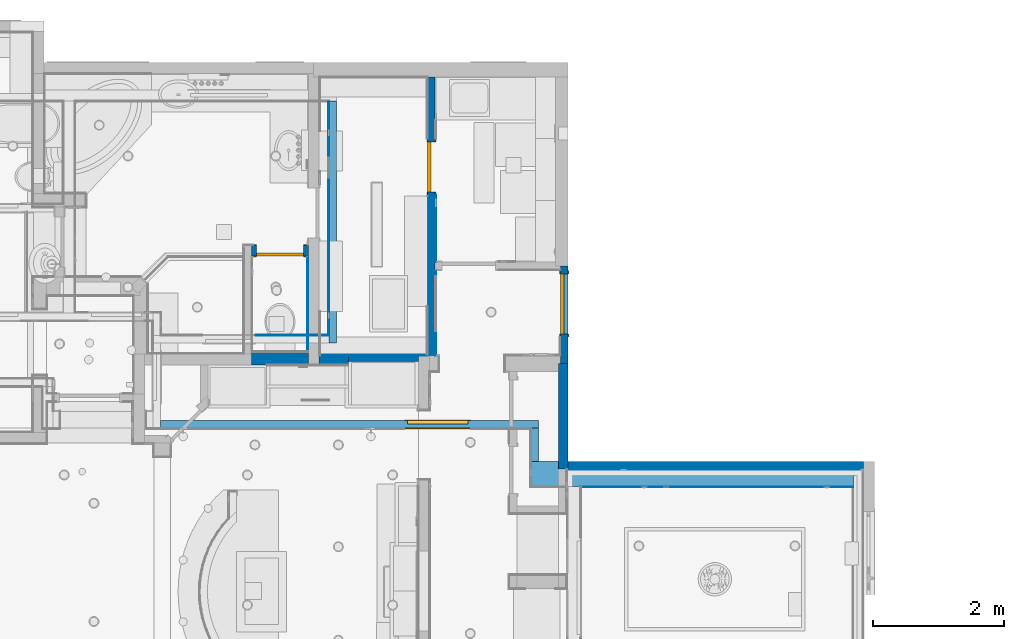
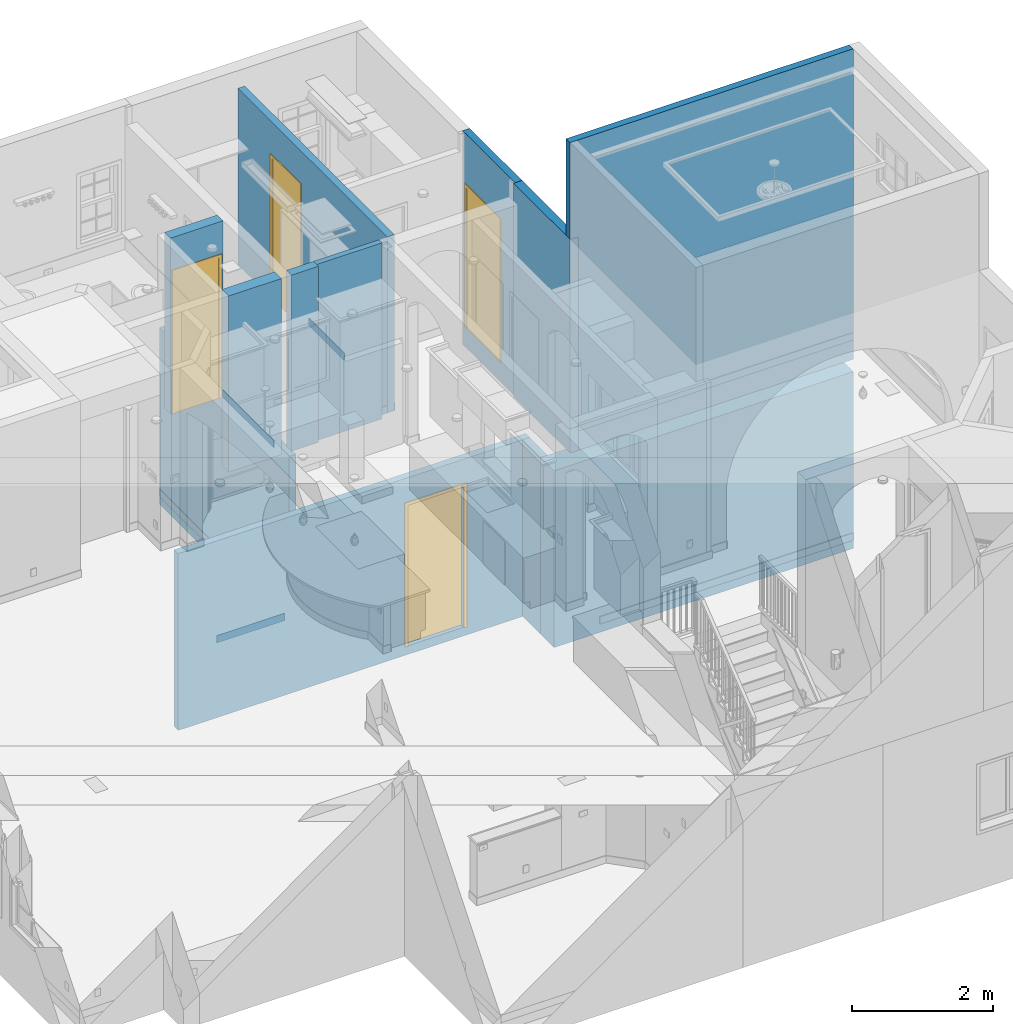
# One storey, part 13 of 81: 20 walls, 4 doors, 4 openings.
"""IFC2X3 building model written with IfcOpenShell, lengths in feet."""

import ifcopenshell
import ifcopenshell.guid

model = None  # the IFC model being written
_history = None  # IfcOwnerHistory: only IFC2X3 demands one
_inside = {}  # id of a spatial element -> (the spatial element, [elements in it])
_under = {}  # id of a project, library or spatial element -> (it, [spatial elements below it])
_declared = {}  # id of a project -> (the project, [libraries it declares])
_typed = {}  # id of a type object -> (the type object, [elements of that type])
_made_of = {}  # id of a material, layer set ... -> (it, [elements and type objects made of it])


def new_model(schema):
    """Start an empty IFC model of exactly this schema.

    Asked for "IFC4X3", IfcOpenShell would pick the latest addendum, in which some entities
    have other attributes; the version numbers below select the first issue.
    IFC2X3 requires an IfcOwnerHistory on every rooted entity: one is made here for all.
    """
    global model, _history
    if schema == "IFC4X3":
        model = ifcopenshell.file(schema_version=(4, 3, 0, 0))
    else:
        model = ifcopenshell.file(schema=schema)
    _inside.clear()
    _under.clear()
    _declared.clear()
    _typed.clear()
    _made_of.clear()
    _history = None
    if model.schema == "IFC2X3":
        org = make("IfcOrganization", Name="unknown")
        user = make(
            "IfcPersonAndOrganization",
            ThePerson=make("IfcPerson", FamilyName="unknown"),
            TheOrganization=org,
        )
        app = make(
            "IfcApplication",
            ApplicationDeveloper=org,
            Version="unknown",
            ApplicationFullName="unknown",
            ApplicationIdentifier="unknown",
        )
        _history = make(
            "IfcOwnerHistory",
            OwningUser=user,
            OwningApplication=app,
            ChangeAction="ADDED",
            CreationDate=0,
        )
    return model


def make(cls, **values):
    """One entity of the class cls with the attributes given. An attribute that is None is left unset."""
    return model.create_entity(
        cls, **{name: value for name, value in values.items() if value is not None}
    )


def entity(cls, *values):
    """Any entity or typed value of the class cls, its attributes in the order of the schema. None: left unset."""
    e = model.create_entity(cls)
    for i, value in enumerate(values):
        if value is not None:
            e[i] = value
    return e


def rooted(cls, **values):
    """An entity with a GlobalId (a new one), such as an element, a storey or a relation."""
    return make(cls, GlobalId=ifcopenshell.guid.new(), OwnerHistory=_history, **values)


def si_unit(unit_type, name, prefix=None):
    """IfcSIUnit, for example si_unit("LENGTHUNIT", "METRE", prefix="MILLI")."""
    return make("IfcSIUnit", UnitType=unit_type, Prefix=prefix, Name=name)


def converted_unit(unit_type, name, factor, base, dimensions=None, offset=None):
    """IfcConversionBasedUnit, such as the inch: factor (a typed value) times the base unit."""
    return make(
        "IfcConversionBasedUnit"
        if offset is None
        else "IfcConversionBasedUnitWithOffset",
        ConversionOffset=offset,
        Dimensions=None
        if dimensions is None
        else entity("IfcDimensionalExponents", *dimensions),
        UnitType=unit_type,
        Name=name,
        ConversionFactor=make(
            "IfcMeasureWithUnit", ValueComponent=factor, UnitComponent=base
        ),
    )


def derived_unit(unit_type, elements):
    """IfcDerivedUnit: a product of units, each with its exponent."""
    return make(
        "IfcDerivedUnit",
        Elements=[
            make("IfcDerivedUnitElement", Unit=unit, Exponent=power)
            for unit, power in elements
        ],
        UnitType=unit_type,
    )


def assignment(units):
    """IfcUnitAssignment: the units of a project."""
    return None if units is None else make("IfcUnitAssignment", Units=units)


def point(xyz):
    """IfcCartesianPoint."""
    return None if xyz is None else make("IfcCartesianPoint", Coordinates=xyz)


def direction(xyz):
    """IfcDirection."""
    return None if xyz is None else make("IfcDirection", DirectionRatios=xyz)


def frame(location, z_axis=None, x_axis=None):
    """IfcAxis2Placement3D, a coordinate frame: its origin and axes. An axis left out is left unset."""
    return make(
        "IfcAxis2Placement3D",
        Location=point(location),
        Axis=direction(z_axis),
        RefDirection=direction(x_axis),
    )


def frame_2d(location, x_axis=None):
    """IfcAxis2Placement2D, a coordinate frame in the plane: its origin and x axis."""
    return make(
        "IfcAxis2Placement2D", Location=point(location), RefDirection=direction(x_axis)
    )


def origin():
    """The frame at (0, 0, 0) with its axes left unset."""
    return frame((0.0, 0.0, 0.0))


def origin_2d_with_axis():
    """The frame at (0, 0) in the plane with the x axis (1, 0) written out."""
    return frame_2d((0.0, 0.0), x_axis=(1.0, 0.0))


def place(relative_to, where):
    """IfcLocalPlacement: puts the frame where relative to a parent placement (None: the world)."""
    return make(
        "IfcLocalPlacement", PlacementRelTo=relative_to, RelativePlacement=where
    )


def context(
    kind, dimensions, precision=None, world=None, true_north=None, identifier=None
):
    """IfcGeometricRepresentationContext, for example the 3D "Model" context."""
    return make(
        "IfcGeometricRepresentationContext",
        ContextIdentifier=identifier,
        ContextType=kind,
        CoordinateSpaceDimension=dimensions,
        Precision=precision,
        WorldCoordinateSystem=world,
        TrueNorth=true_north,
    )


def subcontext(parent, identifier, kind, view, scale=None):
    """IfcGeometricRepresentationSubContext, for example "Body" below "Model"."""
    return make(
        "IfcGeometricRepresentationSubContext",
        ContextIdentifier=identifier,
        ContextType=kind,
        ParentContext=parent,
        TargetScale=scale,
        TargetView=view,
    )


def project(units=None, contexts=None):
    """IfcProject with its units and contexts."""
    return rooted(
        "IfcProject",
        Name="project",
        RepresentationContexts=contexts,
        UnitsInContext=assignment(units),
    )


def spatial(cls, under=None, at=None, **own):
    """A site, building, storey or space (cls), placed at a placement, below another one or the project."""
    s = rooted(cls, ObjectPlacement=at, **own)
    if under is not None:
        _under.setdefault(under.id(), (under, []))[1].append(s)
    return s


def polyline(points):
    """IfcPolyline through the points."""
    return make("IfcPolyline", Points=[point(p) for p in points])


def profile(cls, at=None, kind="AREA", **sizes):
    """A parametric profile (cls). Its sizes go by their IFC names, for example OverallWidth=200.0."""
    return make(cls, ProfileType=kind, Position=at, **sizes)


def rectangle(**sizes):
    """IfcRectangleProfileDef."""
    return profile("IfcRectangleProfileDef", **sizes)


def outline(outer, holes=None, kind="AREA"):
    """IfcArbitraryClosedProfileDef: a profile drawn as a closed curve; with holes, ...WithVoids."""
    if holes is None:
        return make("IfcArbitraryClosedProfileDef", ProfileType=kind, OuterCurve=outer)
    return make(
        "IfcArbitraryProfileDefWithVoids",
        ProfileType=kind,
        OuterCurve=outer,
        InnerCurves=holes,
    )


def extrude(swept, where, along, depth):
    """IfcExtrudedAreaSolid: the profile swept, set in the frame where, extruded along a direction by depth."""
    return make(
        "IfcExtrudedAreaSolid",
        SweptArea=swept,
        Position=where,
        ExtrudedDirection=direction(along),
        Depth=depth,
    )


def clip(a, b, op="DIFFERENCE"):
    """IfcBooleanClippingResult: the solid a cut by the half space b."""
    return make(
        "IfcBooleanClippingResult", Operator=op, FirstOperand=a, SecondOperand=b
    )


def bounded_halfspace(plane, agree, where, boundary):
    """IfcPolygonalBoundedHalfSpace: a half space limited to a polygon's prism."""
    return make(
        "IfcPolygonalBoundedHalfSpace",
        BaseSurface=make("IfcPlane", Position=plane),
        AgreementFlag=agree,
        Position=where,
        PolygonalBoundary=boundary,
    )


def shape(context_of_items, identifier, shape_type, items):
    """IfcShapeRepresentation: the items that make up one representation, for example the "Body"."""
    return make(
        "IfcShapeRepresentation",
        ContextOfItems=context_of_items,
        RepresentationIdentifier=identifier,
        RepresentationType=shape_type,
        Items=items,
    )


def source(mapping_origin, context_of_items, identifier, shape_type, items):
    """IfcRepresentationMap: a shape defined once, which mapped items show again and again."""
    return make(
        "IfcRepresentationMap",
        MappingOrigin=mapping_origin,
        MappedRepresentation=shape(context_of_items, identifier, shape_type, items),
    )


def transform(
    local_origin,
    x_axis=None,
    y_axis=None,
    z_axis=None,
    scale=None,
    scale2=None,
    scale3=None,
    uniform=True,
):
    """IfcCartesianTransformationOperator3D, or its non-uniform kind. x_axis, y_axis, z_axis: its Axis1, 2, 3."""
    if uniform:
        return make(
            "IfcCartesianTransformationOperator3D",
            Axis1=direction(x_axis),
            Axis2=direction(y_axis),
            LocalOrigin=point(local_origin),
            Scale=scale,
            Axis3=direction(z_axis),
        )
    return make(
        "IfcCartesianTransformationOperator3DnonUniform",
        Axis1=direction(x_axis),
        Axis2=direction(y_axis),
        LocalOrigin=point(local_origin),
        Scale=scale,
        Axis3=direction(z_axis),
        Scale2=scale2,
        Scale3=scale3,
    )


def mapped(mapping_source, mapping_target):
    """IfcMappedItem: shows the shape of a source again, moved by a transform."""
    return make(
        "IfcMappedItem", MappingSource=mapping_source, MappingTarget=mapping_target
    )


def material(Name=None, Category=None):
    """IfcMaterial."""
    return make("IfcMaterial", Name=Name, Category=Category)


def material_list(materials):
    """IfcMaterialList."""
    return make("IfcMaterialList", Materials=materials)


def layer(
    of_material, thickness, ventilated=None, Name=None, Category=None, Priority=None
):
    """IfcMaterialLayer: one layer of a wall or slab, of a material (None: an air gap)."""
    return make(
        "IfcMaterialLayer",
        Material=of_material,
        LayerThickness=thickness,
        IsVentilated=ventilated,
        Name=Name,
        Category=Category,
        Priority=Priority,
    )


def layer_set(layers, Name=None):
    """IfcMaterialLayerSet."""
    return make("IfcMaterialLayerSet", MaterialLayers=layers, LayerSetName=Name)


def layer_usage(for_layer_set, set_direction, sense, offset, extent=None):
    """IfcMaterialLayerSetUsage: how a layer set lies in its element."""
    return make(
        "IfcMaterialLayerSetUsage",
        ForLayerSet=for_layer_set,
        LayerSetDirection=set_direction,
        DirectionSense=sense,
        OffsetFromReferenceLine=offset,
        ReferenceExtent=extent,
    )


def made_of(thing, what):
    """Note that an element or type object is made of a material, layer set ...; save() writes the relation."""
    if what is not None:
        _made_of.setdefault(what.id(), (what, []))[1].append(thing)
    return thing


def type_object(cls, material=None, **own):
    """A type object (cls), such as IfcWallType, which elements share."""
    return made_of(rooted(cls, **own), material)


def type_shapes(of_type, sources):
    """Give a type object the sources (RepresentationMaps) that its elements show as mapped items."""
    of_type.RepresentationMaps = sources


def element(
    cls,
    number,
    at=None,
    inside=None,
    cuts=None,
    type_object=None,
    material=None,
    context=None,
    identifier="Body",
    shape_type=None,
    held_by="IfcProductDefinitionShape",
    body=None,
    shapes=None,
    **own,
):
    """One element of the class cls, such as IfcWall. Its Tag is "e" and its number.

    at: its placement. inside: the storey or other place that contains it. cuts: it is an
    opening in that element (IfcRelVoidsElement). A single representation is given by context,
    identifier, shape_type and body (its items); several are given by shapes. held_by: the class
    of the entity that holds the representations. save() writes the other relations.
    """
    e = rooted(cls, Tag="e%d" % number, ObjectPlacement=at, **own)
    if body is not None:
        shapes = [shape(context, identifier, shape_type, body)]
    if shapes is not None:
        e.Representation = make(held_by, Representations=shapes)
    if inside is not None:
        _inside.setdefault(inside.id(), (inside, []))[1].append(e)
    if cuts is not None:
        rooted(
            "IfcRelVoidsElement", RelatingBuildingElement=cuts, RelatedOpeningElement=e
        )
    if type_object is not None:
        _typed.setdefault(type_object.id(), (type_object, []))[1].append(e)
    return made_of(e, material)


def fill(opening, filler):
    """IfcRelFillsElement: the door or window that sits in an opening."""
    return rooted(
        "IfcRelFillsElement",
        RelatingOpeningElement=opening,
        RelatedBuildingElement=filler,
    )


def aggregate(whole, parts):
    """IfcRelAggregates: a whole, such as a stair, and the parts it consists of."""
    return rooted("IfcRelAggregates", RelatingObject=whole, RelatedObjects=parts)


def save(model, path):
    """Write the relations noted so far, then the file.

    IfcRelAggregates (storeys below a building ...), IfcRelContainedInSpatialStructure (elements
    in a storey), IfcRelDefinesByType, IfcRelAssociatesMaterial and IfcRelDeclares: one each for
    every whole, place, type object, material and project.
    """
    for whole, parts in _under.values():
        aggregate(whole, parts)
    for where, things in _inside.values():
        rooted(
            "IfcRelContainedInSpatialStructure",
            RelatedElements=things,
            RelatingStructure=where,
        )
    for kind, things in _typed.values():
        rooted("IfcRelDefinesByType", RelatedObjects=things, RelatingType=kind)
    for what, things in _made_of.values():
        rooted("IfcRelAssociatesMaterial", RelatedObjects=things, RelatingMaterial=what)
    for by, libraries in _declared.values():
        rooted("IfcRelDeclares", RelatingContext=by, RelatedDefinitions=libraries)
    model.write(path)


model = new_model("IFC2X3")

# Units and contexts
model_context = context("Model", 3, precision=0.0001, world=origin(), true_north=direction((6.12303176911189e-17, 1.0)))
body_context = subcontext(model_context, "Body", "Model", "MODEL_VIEW")
ifc_project = project(units=[converted_unit("LENGTHUNIT", "FOOT", entity("IfcRatioMeasure", 0.3048), si_unit("LENGTHUNIT", "METRE"), dimensions=[1, 0, 0, 0, 0, 0, 0]), converted_unit("AREAUNIT", "SQUARE FOOT", entity("IfcRatioMeasure", 0.09290304), si_unit("AREAUNIT", "SQUARE_METRE"), dimensions=[2, 0, 0, 0, 0, 0, 0]), converted_unit("VOLUMEUNIT", "CUBIC FOOT", entity("IfcRatioMeasure", 0.028316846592), si_unit("VOLUMEUNIT", "CUBIC_METRE"), dimensions=[3, 0, 0, 0, 0, 0, 0]), converted_unit("PLANEANGLEUNIT", "DEGREE", entity("IfcRatioMeasure", 0.0174532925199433), si_unit("PLANEANGLEUNIT", "RADIAN"), dimensions=[0, 0, 0, 0, 0, 0, 0]), si_unit("MASSUNIT", "GRAM", prefix="KILO"), derived_unit("MASSDENSITYUNIT", [(si_unit("MASSUNIT", "GRAM", prefix="KILO"), 1), (si_unit("LENGTHUNIT", "METRE"), -3)]), derived_unit("MOMENTOFINERTIAUNIT", [(si_unit("LENGTHUNIT", "METRE"), 4)]), si_unit("TIMEUNIT", "SECOND"), si_unit("FREQUENCYUNIT", "HERTZ"), si_unit("THERMODYNAMICTEMPERATUREUNIT", "DEGREE_CELSIUS"), derived_unit("THERMALTRANSMITTANCEUNIT", [(si_unit("MASSUNIT", "GRAM", prefix="KILO"), 1), (si_unit("THERMODYNAMICTEMPERATUREUNIT", "KELVIN"), -1), (si_unit("TIMEUNIT", "SECOND"), -3)]), derived_unit("VOLUMETRICFLOWRATEUNIT", [(si_unit("LENGTHUNIT", "METRE"), 3), (si_unit("TIMEUNIT", "SECOND"), -1)]), si_unit("ELECTRICCURRENTUNIT", "AMPERE"), si_unit("ELECTRICVOLTAGEUNIT", "VOLT"), si_unit("POWERUNIT", "WATT"), si_unit("FORCEUNIT", "NEWTON"), si_unit("ILLUMINANCEUNIT", "LUX"), si_unit("LUMINOUSFLUXUNIT", "LUMEN"), si_unit("LUMINOUSINTENSITYUNIT", "CANDELA"), derived_unit("USERDEFINED", [(si_unit("MASSUNIT", "GRAM", prefix="KILO"), -1), (si_unit("LENGTHUNIT", "METRE"), -2), (si_unit("TIMEUNIT", "SECOND"), 3), (si_unit("LUMINOUSFLUXUNIT", "LUMEN"), 1)]), derived_unit("LINEARVELOCITYUNIT", [(si_unit("LENGTHUNIT", "METRE"), 1), (si_unit("TIMEUNIT", "SECOND"), -1)]), si_unit("PRESSUREUNIT", "PASCAL"), derived_unit("USERDEFINED", [(si_unit("LENGTHUNIT", "METRE"), -2), (si_unit("MASSUNIT", "GRAM", prefix="KILO"), 1), (si_unit("TIMEUNIT", "SECOND"), -2)]), derived_unit("LINEARFORCEUNIT", [(si_unit("MASSUNIT", "GRAM", prefix="KILO"), 1), (si_unit("LENGTHUNIT", "METRE"), 1), (si_unit("TIMEUNIT", "SECOND"), -2), (si_unit("LENGTHUNIT", "METRE"), -1)]), derived_unit("PLANARFORCEUNIT", [(si_unit("MASSUNIT", "GRAM", prefix="KILO"), 1), (si_unit("LENGTHUNIT", "METRE"), 1), (si_unit("TIMEUNIT", "SECOND"), -2), (si_unit("LENGTHUNIT", "METRE"), -2)])], contexts=[model_context])

# Site, building, storey
site_placement = place(None, origin())
site = spatial("IfcSite", under=ifc_project, at=site_placement, Name="Default", CompositionType="ELEMENT")
building_placement = place(site_placement, origin())
building = spatial("IfcBuilding", under=site, at=building_placement, CompositionType="ELEMENT")
storey_placement = place(building_placement, origin())
storey = spatial("IfcBuildingStorey", under=building, at=storey_placement, Name="First floor", CompositionType="ELEMENT", Elevation=0.0)

# Wall, opening, door
ifc_material = material(Name="Default New Material")
ifc_layer_1 = layer(ifc_material, 0.541666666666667)
ifc_layer_set_1 = layer_set([ifc_layer_1], Name="Basic Wall:Wall_6.5\"")
ifc_layer_usage_1 = layer_usage(ifc_layer_set_1, "AXIS2", "NEGATIVE", 0.270833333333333)
wall_type_1 = type_object("IfcWallType", Name="Basic Wall:Wall_6.5\"", PredefinedType="STANDARD", material=ifc_layer_set_1)
wall_1_placement = place(storey_placement, frame((4.58333333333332, 38.6454881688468, 10.6666666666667)))
wall_1 = element("IfcWallStandardCase", 1, at=wall_1_placement, inside=storey, type_object=wall_type_1, material=ifc_layer_usage_1, Name="Basic Wall:Wall_6.5\"", ObjectType="Basic Wall:Wall_6.5\"", context=body_context, shape_type="SweptSolid", body=[
    extrude(rectangle(XDim=2.83333333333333, YDim=0.541666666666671, at=frame_2d((1.41666666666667, -1.13797860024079e-15), x_axis=(-1.0, 0.0))), origin(), (0.0, 0.0, 1.0), 10.0),
])
opening_1_placement = place(wall_1_placement, frame((2.58333333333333, 0.27083333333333, 0.0)))
opening_1 = element("IfcOpeningElement", 2, at=opening_1_placement, cuts=wall_1, Name="Door_1:2'-4\" X 8'-0\":1", ObjectType="Opening", context=body_context, shape_type="SweptSolid", body=[
    extrude(rectangle(XDim=2.33333333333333, YDim=8.0, at=frame_2d((4.0, 1.16666666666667), x_axis=(0.0, -1.0))), frame((0.0, 0.0, 0.0), z_axis=(0.0, -1.0, 0.0), x_axis=(0.0, 0.0, 1.0)), (0.0, 0.0, 1.0), 0.541666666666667),
])
ifc_material_list_1 = material_list([ifc_material, ifc_material])
door_style_1 = type_object("IfcDoorStyle", Name="Door_1:2'-4\" X 8'-0\"", ConstructionType="NOTDEFINED", OperationType="SINGLE_SWING_LEFT", ParameterTakesPrecedence=False, Sizeable=False, material=ifc_material_list_1)
shared_shape_1 = source(origin(), body_context, "Body", "SweptSolid", [
    extrude(outline(polyline([(-1.33333333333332, -4.125), (1.3333333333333, -4.125), (1.3333333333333, 4.04166666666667), (1.16666666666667, 4.04166666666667), (1.16666666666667, -3.95833333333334), (-1.16666666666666, -3.95833333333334), (-1.16666666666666, 4.04166666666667), (-1.33333333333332, 4.04166666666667), (-1.33333333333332, -4.125)])), frame((1.16666666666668, 0.583333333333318, 4.04166666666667), z_axis=(0.0, -1.0, 0.0), x_axis=(-1.0, 0.0, 0.0)), (0.0, 0.0, 1.0), 0.0416666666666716),
    extrude(outline(polyline([(-4.125, -1.33333333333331), (4.04166666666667, -1.33333333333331), (4.04166666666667, -1.16666666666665), (-3.95833333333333, -1.16666666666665), (-3.95833333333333, 1.16666666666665), (4.04166666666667, 1.16666666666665), (4.04166666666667, 1.33333333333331), (-4.125, 1.33333333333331), (-4.125, -1.33333333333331)])), frame((1.16666666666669, 0.0, 4.04166666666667), z_axis=(0.0, -1.0, 0.0), x_axis=(0.0, 0.0, -1.0)), (0.0, 0.0, 1.0), 0.0416666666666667),
    extrude(rectangle(XDim=2.33333333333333, YDim=0.166666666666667, at=origin_2d_with_axis()), frame((1.16666666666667, 0.458333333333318, 0.0)), (0.0, 0.0, 1.0), 8.0),
])
type_shapes(door_style_1, [shared_shape_1])
door_1_placement = place(opening_1_placement, frame((0.0, 0.0, 0.0), z_axis=(0.0, 0.0, 1.0), x_axis=(-1.0, 0.0, 0.0)))
door_1 = element("IfcDoor", 3, at=door_1_placement, inside=storey, type_object=door_style_1, material=ifc_material, Name="Door_1:2'-4\" X 8'-0\"", ObjectType="Door_1:2'-4\" X 8'-0\"", OverallHeight=8.0, OverallWidth=2.33333333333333, context=body_context, shape_type="MappedRepresentation", body=[
    mapped(shared_shape_1, transform((0.0, 0.0, 0.0), scale=1.0)),
])
fill(opening_1, door_1)

# Wall
ifc_layer_2 = layer(ifc_material, 0.625)
ifc_layer_set_2 = layer_set([ifc_layer_2], Name="Basic Wall:Wall_7.5\"")
ifc_layer_usage_2 = layer_usage(ifc_layer_set_2, "AXIS2", "NEGATIVE", 0.3125)
wall_type_2 = type_object("IfcWallType", Name="Basic Wall:Wall_7.5\"", PredefinedType="STANDARD", material=ifc_layer_set_2)
wall_2_placement = place(storey_placement, frame((4.58333333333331, 33.2708333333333, 10.6666666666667)))
element("IfcWallStandardCase", 4, at=wall_2_placement, inside=storey, type_object=wall_type_2, material=ifc_layer_usage_2, Name="Basic Wall:Wall_7.5\"", ObjectType="Basic Wall:Wall_7.5\"", context=body_context, shape_type="SweptSolid", body=[
    extrude(rectangle(XDim=2.83333333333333, YDim=0.625, at=frame_2d((1.41666666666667, 0.0), x_axis=(-1.0, 0.0))), origin(), (0.0, 0.0, 1.0), 10.0),
])

# Wall, opening, door
ifc_layer_3 = layer(ifc_material, 0.375)
ifc_layer_set_3 = layer_set([ifc_layer_3], Name="Basic Wall:Wall_4.5\"")
ifc_layer_usage_3 = layer_usage(ifc_layer_set_3, "AXIS2", "NEGATIVE", 0.1875)
wall_type_3 = type_object("IfcWallType", Name="Basic Wall:Wall_4.5\"", PredefinedType="STANDARD", material=ifc_layer_set_3)
wall_3_placement = place(storey_placement, frame((20.1875, 37.8954881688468, 9.54166666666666), z_axis=(0.0, 0.0, 1.0), x_axis=(0.0, -1.0, 0.0)))
wall_3 = element("IfcWallStandardCase", 5, at=wall_3_placement, inside=storey, type_object=wall_type_3, material=ifc_layer_usage_3, Name="Basic Wall:Wall_4.5\"", ObjectType="Basic Wall:Wall_4.5\"", context=body_context, shape_type="SweptSolid", body=[
    extrude(rectangle(XDim=4.87500000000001, YDim=0.375, at=frame_2d((2.4375, 4.85722573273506e-16), x_axis=(-1.0, 0.0))), origin(), (0.0, 0.0, 1.0), 12.125),
])
opening_2_placement = place(wall_3_placement, frame((3.39583333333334, 0.187499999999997, 1.125)))
opening_2 = element("IfcOpeningElement", 6, at=opening_2_placement, cuts=wall_3, Name="Door_1:3'-0\" X 8'-0\":1", ObjectType="Opening", context=body_context, shape_type="SweptSolid", body=[
    extrude(rectangle(XDim=3.0, YDim=8.0, at=frame_2d((4.0, 1.5), x_axis=(0.0, 1.0))), frame((0.0, 0.0, 0.0), z_axis=(0.0, -1.0, 0.0), x_axis=(0.0, 0.0, 1.0)), (0.0, 0.0, 1.0), 0.375),
])
ifc_material_list_2 = material_list([ifc_material, ifc_material])
door_style_2 = type_object("IfcDoorStyle", Name="Door_1:3'-0\" X 8'-0\"", ConstructionType="NOTDEFINED", OperationType="SINGLE_SWING_RIGHT", ParameterTakesPrecedence=False, Sizeable=False, material=ifc_material_list_2)
shared_shape_2 = source(origin(), body_context, "Body", "SweptSolid", [
    extrude(outline(polyline([(-1.66666666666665, -4.125), (1.66666666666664, -4.125), (1.66666666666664, 4.04166666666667), (1.50000000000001, 4.04166666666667), (1.50000000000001, -3.95833333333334), (-1.49999999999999, -3.95833333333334), (-1.49999999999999, 4.04166666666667), (-1.66666666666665, 4.04166666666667), (-1.66666666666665, -4.125)])), frame((1.49999999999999, 0.375000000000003, 4.04166666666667), z_axis=(0.0, 1.0, 0.0), x_axis=(1.0, 0.0, 0.0)), (0.0, 0.0, 1.0), 0.0416666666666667),
    extrude(outline(polyline([(-4.125, -1.66666666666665), (4.04166666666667, -1.66666666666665), (4.04166666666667, -1.49999999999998), (-3.95833333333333, -1.49999999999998), (-3.95833333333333, 1.49999999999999), (4.04166666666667, 1.49999999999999), (4.04166666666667, 1.66666666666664), (-4.125, 1.66666666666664), (-4.125, -1.66666666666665)])), frame((1.49999999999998, -0.0416666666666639, 4.04166666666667), z_axis=(0.0, 1.0, 0.0), x_axis=(0.0, 0.0, -1.0)), (0.0, 0.0, 1.0), 0.0416666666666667),
    extrude(rectangle(XDim=0.166666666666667, YDim=3.0, at=origin_2d_with_axis()), frame((1.5, 0.291666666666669, 0.0), z_axis=(0.0, 0.0, 1.0), x_axis=(0.0, 1.0, 0.0)), (0.0, 0.0, 1.0), 8.0),
])
type_shapes(door_style_2, [shared_shape_2])
door_2_placement = place(opening_2_placement, frame((0.0, 0.0, 0.0), z_axis=(0.0, 0.0, 1.0), x_axis=(-1.0, 0.0, 0.0)))
door_2 = element("IfcDoor", 7, at=door_2_placement, inside=storey, type_object=door_style_2, material=ifc_material, Name="Door_1:3'-0\" X 8'-0\"", ObjectType="Door_1:3'-0\" X 8'-0\"", OverallHeight=8.0, OverallWidth=3.0, context=body_context, shape_type="MappedRepresentation", body=[
    mapped(shared_shape_2, transform((0.0, 0.0, 0.0), scale=1.0)),
])
fill(opening_2, door_2)

# Wall
ifc_layer_usage_4 = layer_usage(ifc_layer_set_3, "AXIS2", "POSITIVE", -0.1875)
wall_4_placement = place(storey_placement, frame((35.125, 27.9375, 9.54166666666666), z_axis=(0.0, 0.0, 1.0), x_axis=(-1.0, 0.0, 0.0)))
element("IfcWallStandardCase", 8, at=wall_4_placement, inside=storey, type_object=wall_type_3, material=ifc_layer_usage_4, Name="Basic Wall:Wall_4.5\"", ObjectType="Basic Wall:Wall_4.5\"", context=body_context, shape_type="SweptSolid", body=[
    extrude(rectangle(XDim=15.2083333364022, YDim=0.375, at=frame_2d((7.60416666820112, 5.82867087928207e-16), x_axis=(-1.0, 0.0))), origin(), (0.0, 0.0, 1.0), 17.625),
])

# Wall, opening, door
ifc_layer_usage_5 = layer_usage(ifc_layer_set_3, "AXIS2", "NEGATIVE", 0.1875)
wall_5_placement = place(storey_placement, frame((13.5625, 47.3329881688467, 10.6666666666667), z_axis=(0.0, 0.0, 1.0), x_axis=(0.0, -1.0, 0.0)))
wall_5 = element("IfcWallStandardCase", 9, at=wall_5_placement, inside=storey, type_object=wall_type_3, material=ifc_layer_usage_5, Name="Basic Wall:Wall_4.5\"", ObjectType="Basic Wall:Wall_4.5\"", context=body_context, shape_type="SweptSolid", body=[
    extrude(rectangle(XDim=13.9166666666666, YDim=0.375, at=frame_2d((6.95833333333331, -2.91433543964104e-16), x_axis=(-1.0, 0.0))), origin(), (0.0, 0.0, 1.0), 10.0),
])
opening_3_placement = place(wall_5_placement, frame((5.74999999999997, 0.187499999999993, 0.0)))
opening_3 = element("IfcOpeningElement", 10, at=opening_3_placement, cuts=wall_5, Name="Door_1:2'-6\" X 8'-0\":1", ObjectType="Opening", context=body_context, shape_type="SweptSolid", body=[
    extrude(rectangle(XDim=2.5, YDim=8.0, at=frame_2d((4.0, 1.25), x_axis=(0.0, 1.0))), frame((0.0, 0.0, 0.0), z_axis=(0.0, -1.0, 0.0), x_axis=(0.0, 0.0, 1.0)), (0.0, 0.0, 1.0), 0.375),
])
ifc_material_list_3 = material_list([ifc_material, ifc_material])
door_style_3 = type_object("IfcDoorStyle", Name="Door_1:2'-6\" X 8'-0\"", ConstructionType="NOTDEFINED", OperationType="SINGLE_SWING_RIGHT", ParameterTakesPrecedence=False, Sizeable=False, material=ifc_material_list_3)
shared_shape_3 = source(origin(), body_context, "Body", "SweptSolid", [
    extrude(outline(polyline([(-1.41666666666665, -4.125), (1.41666666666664, -4.125), (1.41666666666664, 4.04166666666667), (1.25000000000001, 4.04166666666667), (1.25000000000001, -3.95833333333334), (-1.24999999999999, -3.95833333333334), (-1.24999999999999, 4.04166666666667), (-1.41666666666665, 4.04166666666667), (-1.41666666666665, -4.125)])), frame((1.24999999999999, 0.375000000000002, 4.04166666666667), z_axis=(0.0, 1.0, 0.0), x_axis=(1.0, 0.0, 0.0)), (0.0, 0.0, 1.0), 0.0416666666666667),
    extrude(outline(polyline([(-4.125, -1.41666666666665), (4.04166666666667, -1.41666666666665), (4.04166666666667, -1.24999999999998), (-3.95833333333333, -1.24999999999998), (-3.95833333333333, 1.24999999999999), (4.04166666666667, 1.24999999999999), (4.04166666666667, 1.41666666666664), (-4.125, 1.41666666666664), (-4.125, -1.41666666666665)])), frame((1.24999999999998, -0.0416666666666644, 4.04166666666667), z_axis=(0.0, 1.0, 0.0), x_axis=(0.0, 0.0, -1.0)), (0.0, 0.0, 1.0), 0.0416666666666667),
    extrude(rectangle(XDim=0.166666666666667, YDim=2.5, at=origin_2d_with_axis()), frame((1.25, 0.291666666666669, 0.0), z_axis=(0.0, 0.0, 1.0), x_axis=(0.0, 1.0, 0.0)), (0.0, 0.0, 1.0), 8.0),
])
type_shapes(door_style_3, [shared_shape_3])
door_3_placement = place(opening_3_placement, frame((0.0, 0.0, 0.0), z_axis=(0.0, 0.0, 1.0), x_axis=(-1.0, 0.0, 0.0)))
door_3 = element("IfcDoor", 11, at=door_3_placement, inside=storey, type_object=door_style_3, material=ifc_material, Name="Door_1:2'-6\" X 8'-0\"", ObjectType="Door_1:2'-6\" X 8'-0\"", OverallHeight=8.0, OverallWidth=2.5, context=body_context, shape_type="MappedRepresentation", body=[
    mapped(shared_shape_3, transform((0.0, 0.0, 0.0), scale=1.0)),
])
fill(opening_3, door_3)

# Wall
ifc_layer_usage_6 = layer_usage(ifc_layer_set_3, "AXIS2", "POSITIVE", -0.1875)
wall_6_placement = place(storey_placement, frame((8.64583333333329, 34.0416666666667, -0.5), z_axis=(0.0, 0.0, 1.0), x_axis=(0.0, 1.0, 0.0)))
element("IfcWallStandardCase", 12, at=wall_6_placement, inside=storey, type_object=wall_type_3, material=ifc_layer_usage_6, Name="Basic Wall:Wall_4.5\"", ObjectType="Basic Wall:Wall_4.5\"", context=body_context, shape_type="SweptSolid", body=[
    extrude(rectangle(XDim=12.0833333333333, YDim=0.375, at=frame_2d((6.04166666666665, 0.0), x_axis=(-1.0, 0.0))), origin(), (0.0, 0.0, 1.0), 10.0416666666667),
])

# Wall, opening, door
ifc_layer_usage_7 = layer_usage(ifc_layer_set_3, "AXIS2", "NEGATIVE", 0.1875)
wall_7_placement = place(storey_placement, frame((0.0416666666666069, 29.9791666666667, -0.5)))
wall_7 = element("IfcWallStandardCase", 13, at=wall_7_placement, inside=storey, type_object=wall_type_3, material=ifc_layer_usage_7, Name="Basic Wall:Wall_4.5\"", ObjectType="Basic Wall:Wall_4.5\"", context=body_context, shape_type="SweptSolid", body=[
    extrude(rectangle(XDim=18.875, YDim=0.375, at=frame_2d((9.43750000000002, 0.0), x_axis=(-1.0, 0.0))), origin(), (0.0, 0.0, 1.0), 10.0416666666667),
])
opening_4_placement = place(wall_7_placement, frame((12.3333333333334, -0.187500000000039, 0.5)))
opening_4 = element("IfcOpeningElement", 14, at=opening_4_placement, cuts=wall_7, Name="Door_1:3'-0\" X 8'-0\":1", ObjectType="Opening", context=body_context, shape_type="SweptSolid", body=[
    extrude(rectangle(XDim=3.0, YDim=8.0, at=frame_2d((4.0, 1.5), x_axis=(0.0, 1.0))), frame((0.0, 0.0, 0.0), z_axis=(0.0, 1.0, 0.0), x_axis=(0.0, 0.0, 1.0)), (0.0, 0.0, 1.0), 0.375),
])
door_4_placement = place(opening_4_placement, origin())
door_4 = element("IfcDoor", 15, at=door_4_placement, inside=storey, type_object=door_style_2, material=ifc_material, Name="Door_1:3'-0\" X 8'-0\"", ObjectType="Door_1:3'-0\" X 8'-0\"", OverallHeight=8.0, OverallWidth=3.0, context=body_context, shape_type="MappedRepresentation", body=[
    mapped(shared_shape_2, transform((0.0, 0.0, 0.0), scale=1.0)),
])
fill(opening_4, door_4)

# Walls
ifc_layer_usage_8 = layer_usage(ifc_layer_set_3, "AXIS2", "NEGATIVE", 0.1875)
wall_8_placement = place(storey_placement, frame((18.7291666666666, 29.7916666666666, -0.5), z_axis=(0.0, 0.0, 1.0), x_axis=(0.0, -1.0, 0.0)))
element("IfcWallStandardCase", 16, at=wall_8_placement, inside=storey, type_object=wall_type_3, material=ifc_layer_usage_8, Name="Basic Wall:Wall_4.5\"", ObjectType="Basic Wall:Wall_4.5\"", context=body_context, shape_type="SweptSolid", body=[
    extrude(rectangle(XDim=1.6666666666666, YDim=0.375, at=frame_2d((0.8333333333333, -3.7470027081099e-16), x_axis=(-1.0, 0.0))), origin(), (0.0, 0.0, 1.0), 10.0416666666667),
])
ifc_layer_4 = layer(ifc_material, 0.458333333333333)
ifc_layer_set_4 = layer_set([ifc_layer_4], Name="Basic Wall:Wall_5.5\"")
ifc_layer_usage_9 = layer_usage(ifc_layer_set_4, "AXIS2", "NEGATIVE", 0.229166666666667)
wall_type_4 = type_object("IfcWallType", Name="Basic Wall:Wall_5.5\"", PredefinedType="STANDARD", material=ifc_layer_set_4)
wall_9_placement = place(storey_placement, frame((20.1458333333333, 33.0204881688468, 9.54166666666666), z_axis=(0.0, 0.0, 1.0), x_axis=(0.0, -1.0, 0.0)))
element("IfcWallStandardCase", 17, at=wall_9_placement, inside=storey, type_object=wall_type_4, material=ifc_layer_usage_9, Name="Basic Wall:Wall_5.5\"", ObjectType="Basic Wall:Wall_5.5\"", context=body_context, shape_type="SweptSolid", body=[
    extrude(rectangle(XDim=5.27048816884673, YDim=0.458333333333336, at=frame_2d((2.63524408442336, -1.38777878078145e-17), x_axis=(-1.0, 0.0))), origin(), (0.0, 0.0, 1.0), 12.125),
])
ifc_layer_usage_10 = layer_usage(ifc_layer_set_4, "AXIS2", "NEGATIVE", 0.229166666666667)
wall_10_placement = place(storey_placement, frame((7.95833333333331, 33.1875, 10.6666666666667)))
element("IfcWallStandardCase", 18, at=wall_10_placement, inside=storey, type_object=wall_type_4, material=ifc_layer_usage_10, Name="Basic Wall:Wall_5.5\"", ObjectType="Basic Wall:Wall_5.5\"", context=body_context, shape_type="SweptSolid", body=[
    extrude(rectangle(XDim=1.45833333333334, YDim=0.458333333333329, at=frame_2d((0.729166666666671, 0.0), x_axis=(-1.0, 0.0))), origin(), (0.0, 0.0, 1.0), 10.0),
])
ifc_layer_5 = layer(ifc_material, 0.291666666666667)
ifc_layer_set_5 = layer_set([ifc_layer_5], Name="Basic Wall:Wall_3.5\"")
ifc_layer_usage_11 = layer_usage(ifc_layer_set_5, "AXIS2", "POSITIVE", -0.145833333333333)
wall_type_5 = type_object("IfcWallType", Name="Basic Wall:Wall_3.5\"", PredefinedType="STANDARD", material=ifc_layer_set_5)
wall_11_placement = place(storey_placement, frame((9.41666666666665, 33.2708333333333, 10.6666666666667)))
element("IfcWallStandardCase", 19, at=wall_11_placement, inside=storey, type_object=wall_type_5, material=ifc_layer_usage_11, Name="Basic Wall:Wall_3.5\"", ObjectType="Basic Wall:Wall_3.5\"", context=body_context, shape_type="SweptSolid", body=[
    extrude(rectangle(XDim=3.5, YDim=0.291666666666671, at=frame_2d((1.75, -4.16333634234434e-17), x_axis=(-1.0, 0.0))), origin(), (0.0, 0.0, 1.0), 10.0),
])
ifc_layer_6 = layer(ifc_material, 1.25)
ifc_layer_set_6 = layer_set([ifc_layer_6], Name="Basic Wall:Wall_1'3\"")
ifc_layer_usage_12 = layer_usage(ifc_layer_set_6, "AXIS2", "POSITIVE", -0.625)
wall_type_6 = type_object("IfcWallType", Name="Basic Wall:Wall_1'3\"", PredefinedType="STANDARD", material=ifc_layer_set_6)
wall_12_placement = place(storey_placement, frame((34.6249999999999, 27.5, -0.5), z_axis=(0.0, 0.0, 1.0), x_axis=(-1.0, 0.0, 0.0)))
element("IfcWallStandardCase", 20, at=wall_12_placement, inside=storey, type_object=wall_type_6, material=ifc_layer_usage_12, Name="Basic Wall:Wall_1'3\"", ObjectType="Basic Wall:Wall_1'3\"", context=body_context, shape_type="SweptSolid", body=[
    extrude(rectangle(XDim=16.0833333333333, YDim=1.25, at=frame_2d((8.04166666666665, 0.0), x_axis=(-1.0, 0.0))), origin(), (0.0, 0.0, 1.0), 10.0416666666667),
])
ifc_layer_7 = layer(ifc_material, 0.0416666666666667)
ifc_layer_set_7 = layer_set([ifc_layer_7], Name="Basic Wall:Wall Border_T1")
ifc_layer_usage_13 = layer_usage(ifc_layer_set_7, "AXIS2", "POSITIVE", -0.0208333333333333)
wall_type_7 = type_object("IfcWallType", Name="Basic Wall:Wall Border_T1", PredefinedType="STANDARD", material=ifc_layer_set_7)
wall_13_placement = place(storey_placement, frame((21.0, 26.8541666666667, 0.0)))
element("IfcWallStandardCase", 21, at=wall_13_placement, inside=storey, type_object=wall_type_7, material=ifc_layer_usage_13, Name="Basic Wall:Wall Border_T1", ObjectType="Basic Wall:Wall Border_T1", context=body_context, shape_type="SweptSolid", body=[
    extrude(rectangle(XDim=13.6249999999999, YDim=0.0416666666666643, at=frame_2d((6.81249999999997, 0.0), x_axis=(-1.0, 0.0))), origin(), (0.0, 0.0, 1.0), 0.416666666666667),
])
ifc_layer_usage_14 = layer_usage(ifc_layer_set_7, "AXIS2", "POSITIVE", -0.0208333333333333)
wall_14_placement = place(storey_placement, frame((8.43749999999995, 46.0833333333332, 0.0), z_axis=(0.0, 0.0, 1.0), x_axis=(0.0, -1.0, 0.0)))
element("IfcWallStandardCase", 22, at=wall_14_placement, inside=storey, type_object=wall_type_7, material=ifc_layer_usage_14, Name="Basic Wall:Wall Border_T1", ObjectType="Basic Wall:Wall Border_T1", context=body_context, shape_type="Clipping", body=[
    clip(clip(extrude(rectangle(XDim=11.6249999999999, YDim=0.0416666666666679, at=frame_2d((5.81249999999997, -6.93889390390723e-17), x_axis=(-1.0, 0.0))), origin(), (0.0, 0.0, 1.0), 0.416666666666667), bounded_halfspace(frame((11.6249999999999, -0.0208333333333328, 0.416666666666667), z_axis=(-1.0, 0.0, 0.0), x_axis=(0.0, -1.0, 0.0)), True, frame((11.6249999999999, -0.0208333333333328, 0.416666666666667), z_axis=(-1.0, 0.0, 0.0), x_axis=(0.0, -1.0, 0.0)), polyline([(0.0, 0.0), (-0.0416666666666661, 0.0), (-0.0416666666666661, -0.416666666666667), (0.0, -0.416666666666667), (0.0, 0.0)]))), bounded_halfspace(frame((0.0, -0.0208333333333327, 0.0), z_axis=(1.0, 0.0, 0.0), x_axis=(0.0, 1.0, 0.0)), True, frame((0.0, -0.0208333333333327, 0.0), z_axis=(1.0, 0.0, 0.0), x_axis=(0.0, 1.0, 0.0)), polyline([(0.0, 0.0), (0.0416666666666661, 0.0), (0.0416666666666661, 0.416666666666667), (0.0, 0.416666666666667), (0.0, 0.0)]))),
])
ifc_layer_usage_15 = layer_usage(ifc_layer_set_7, "AXIS2", "NEGATIVE", 0.0208333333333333)
wall_15_placement = place(storey_placement, frame((4.79166666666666, 34.4375, 0.0)))
element("IfcWallStandardCase", 23, at=wall_15_placement, inside=storey, type_object=wall_type_7, material=ifc_layer_usage_15, Name="Basic Wall:Wall Border_T1", ObjectType="Basic Wall:Wall Border_T1", context=body_context, shape_type="SweptSolid", body=[
    extrude(rectangle(XDim=3.66666666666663, YDim=0.0416666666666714, at=frame_2d((1.83333333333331, 0.0), x_axis=(-1.0, 0.0))), origin(), (0.0, 0.0, 1.0), 0.416666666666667),
])
ifc_layer_usage_16 = layer_usage(ifc_layer_set_7, "AXIS2", "NEGATIVE", 0.0208333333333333)
wall_16_placement = place(storey_placement, frame((13.7708333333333, 37.6663215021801, 10.6666666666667), z_axis=(0.0, 0.0, 1.0), x_axis=(0.0, -1.0, 0.0)))
element("IfcWallStandardCase", 24, at=wall_16_placement, inside=storey, type_object=wall_type_7, material=ifc_layer_usage_16, Name="Basic Wall:Wall Border_T1", ObjectType="Basic Wall:Wall Border_T1", context=body_context, shape_type="SweptSolid", body=[
    extrude(rectangle(XDim=4.25000000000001, YDim=0.0416666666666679, at=frame_2d((2.12500000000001, 0.0), x_axis=(-1.0, 0.0))), origin(), (0.0, 0.0, 1.0), 0.416666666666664),
])
ifc_layer_usage_17 = layer_usage(ifc_layer_set_7, "AXIS2", "NEGATIVE", 0.0208333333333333)
wall_17_placement = place(storey_placement, frame((7.39583333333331, 33.625, 10.6666666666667), z_axis=(0.0, 0.0, 1.0), x_axis=(0.0, 1.0, 0.0)))
element("IfcWallStandardCase", 25, at=wall_17_placement, inside=storey, type_object=wall_type_7, material=ifc_layer_usage_17, Name="Basic Wall:Wall Border_T1", ObjectType="Basic Wall:Wall Border_T1", context=body_context, shape_type="SweptSolid", body=[
    extrude(rectangle(XDim=4.74965483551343, YDim=0.0416666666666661, at=frame_2d((2.37482741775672, 0.0), x_axis=(-1.0, 0.0))), origin(), (0.0, 0.0, 1.0), 0.416666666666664),
])
ifc_layer_usage_18 = layer_usage(ifc_layer_set_7, "AXIS2", "NEGATIVE", 0.0208333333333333)
wall_18_placement = place(storey_placement, frame((8.0, 33.4375, 10.6666666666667)))
element("IfcWallStandardCase", 26, at=wall_18_placement, inside=storey, type_object=wall_type_7, material=ifc_layer_usage_18, Name="Basic Wall:Wall Border_T1", ObjectType="Basic Wall:Wall Border_T1", context=body_context, shape_type="SweptSolid", body=[
    extrude(rectangle(XDim=5.37499999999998, YDim=0.0416666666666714, at=frame_2d((2.68749999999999, 0.0), x_axis=(-1.0, 0.0))), origin(), (0.0, 0.0, 1.0), 0.416666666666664),
])
ifc_layer_usage_19 = layer_usage(ifc_layer_set_7, "AXIS2", "NEGATIVE", 0.0208333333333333)
wall_19_placement = place(storey_placement, frame((13.7708333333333, 41.4163215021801, 10.6666666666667), z_axis=(0.0, 0.0, 1.0), x_axis=(0.0, -1.0, 0.0)))
element("IfcWallStandardCase", 27, at=wall_19_placement, inside=storey, type_object=wall_type_7, material=ifc_layer_usage_19, Name="Basic Wall:Wall Border_T1", ObjectType="Basic Wall:Wall Border_T1", context=body_context, shape_type="SweptSolid", body=[
    extrude(rectangle(XDim=3.33333333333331, YDim=0.0416666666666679, at=frame_2d((1.66666666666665, 0.0), x_axis=(-1.0, 0.0))), origin(), (0.0, 0.0, 1.0), 0.416666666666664),
])
ifc_layer_usage_20 = layer_usage(ifc_layer_set_7, "AXIS2", "POSITIVE", -0.0208333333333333)
wall_20_placement = place(storey_placement, frame((20.3333333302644, 27.7291666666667, 10.6666666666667)))
element("IfcWallStandardCase", 28, at=wall_20_placement, inside=storey, type_object=wall_type_7, material=ifc_layer_usage_20, Name="Basic Wall:Wall Border_T1", ObjectType="Basic Wall:Wall Border_T1", context=body_context, shape_type="SweptSolid", body=[
    extrude(rectangle(XDim=14.7916666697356, YDim=0.0416666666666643, at=frame_2d((7.39583333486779, 0.0), x_axis=(-1.0, 0.0))), origin(), (0.0, 0.0, 1.0), 0.416666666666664),
])

save(model, "model.ifc")
